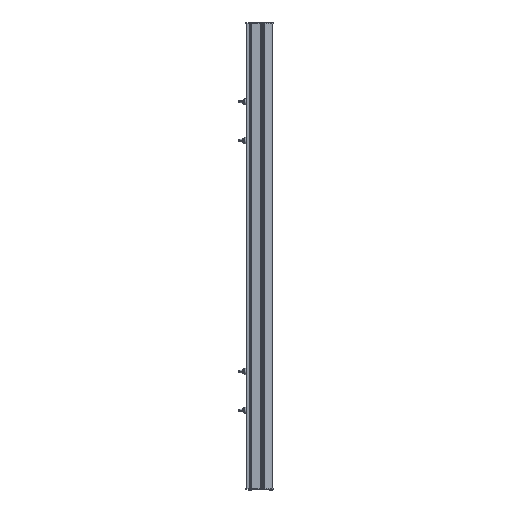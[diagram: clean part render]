
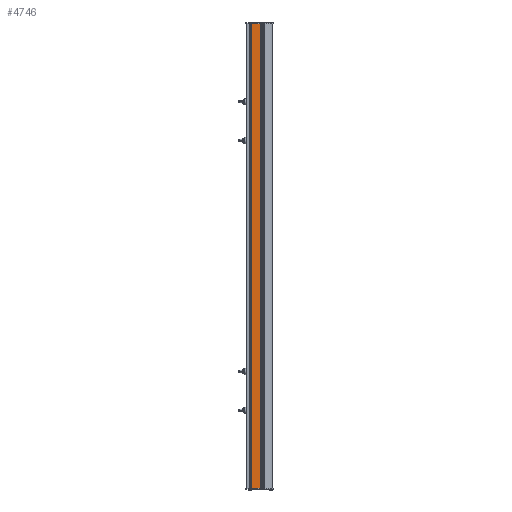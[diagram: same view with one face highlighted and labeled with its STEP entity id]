
A CAD part, front view. The second image highlights one B-rep face of the part: STEP entity #4746.
In plain terms, the highlighted planar face has unit normal (0, -1, 0).
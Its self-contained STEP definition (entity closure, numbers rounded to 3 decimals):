
#4694=CARTESIAN_POINT('Vertex',(60.,-130.,1200.)) ;
#4697=CARTESIAN_POINT('Line Origine',(60.,-130.,0.)) ;
#4701=CARTESIAN_POINT('Vertex',(60.,-130.,-1200.)) ;
#4716=CARTESIAN_POINT('Axis2P3D Location',(0.,-130.,0.)) ;
#4721=CARTESIAN_POINT('Line Origine',(11.5,-130.,0.)) ;
#4725=CARTESIAN_POINT('Vertex',(11.5,-130.,-1200.)) ;
#4727=CARTESIAN_POINT('Vertex',(11.5,-130.,1200.)) ;
#4730=CARTESIAN_POINT('Line Origine',(35.75,-130.,-1200.)) ;
#4735=CARTESIAN_POINT('Line Origine',(35.75,-130.,1200.)) ;
#4698=DIRECTION('Vector Direction',(0.,0.,1.)) ;
#4717=DIRECTION('Axis2P3D Direction',(0.,-1.,0.)) ;
#4718=DIRECTION('Axis2P3D XDirection',(1.,0.,0.)) ;
#4722=DIRECTION('Vector Direction',(0.,0.,1.)) ;
#4731=DIRECTION('Vector Direction',(-1.,0.,0.)) ;
#4736=DIRECTION('Vector Direction',(1.,0.,0.)) ;
#4719=AXIS2_PLACEMENT_3D('Plane Axis2P3D',#4716,#4717,#4718) ;
#4699=VECTOR('Line Direction',#4698,1.) ;
#4723=VECTOR('Line Direction',#4722,1.) ;
#4732=VECTOR('Line Direction',#4731,1.) ;
#4737=VECTOR('Line Direction',#4736,1.) ;
#4703=EDGE_CURVE('',#4695,#4702,#4700,.F.) ;
#4729=EDGE_CURVE('',#4726,#4728,#4724,.T.) ;
#4734=EDGE_CURVE('',#4702,#4726,#4733,.T.) ;
#4739=EDGE_CURVE('',#4728,#4695,#4738,.T.) ;
#4720=PLANE('',#4719) ;
#4741=ORIENTED_EDGE('',*,*,#4729,.F.) ;
#4742=ORIENTED_EDGE('',*,*,#4734,.F.) ;
#4743=ORIENTED_EDGE('',*,*,#4703,.F.) ;
#4744=ORIENTED_EDGE('',*,*,#4739,.F.) ;
#4746=ADVANCED_FACE('PartBody',(#4745),#4720,.T.) ;
#4740=EDGE_LOOP('',(#4741,#4742,#4743,#4744)) ;
#4745=FACE_OUTER_BOUND('',#4740,.T.) ;
#4700=LINE('Line',#4697,#4699) ;
#4724=LINE('Line',#4721,#4723) ;
#4733=LINE('Line',#4730,#4732) ;
#4738=LINE('Line',#4735,#4737) ;
#4695=VERTEX_POINT('',#4694) ;
#4702=VERTEX_POINT('',#4701) ;
#4726=VERTEX_POINT('',#4725) ;
#4728=VERTEX_POINT('',#4727) ;
